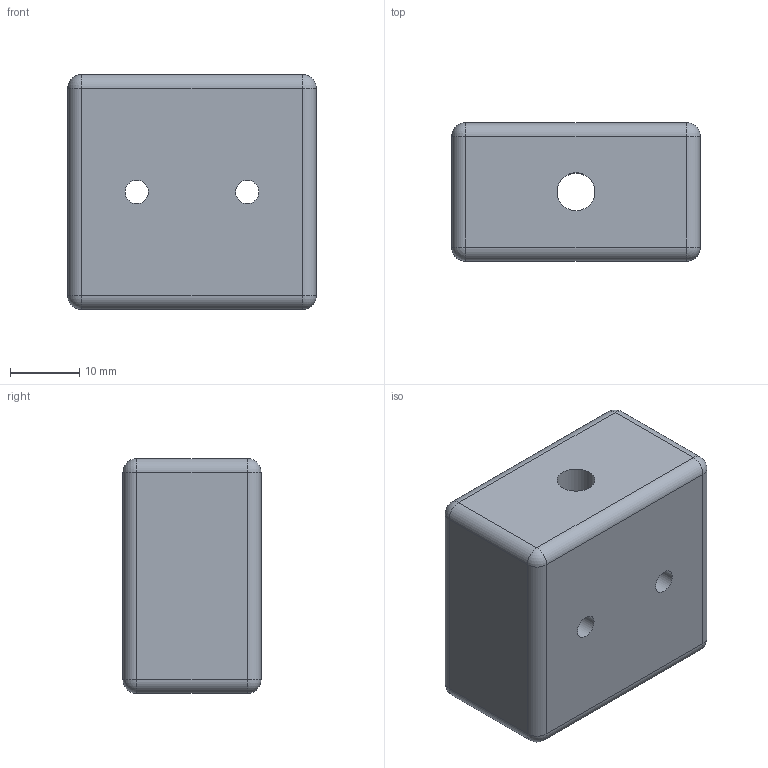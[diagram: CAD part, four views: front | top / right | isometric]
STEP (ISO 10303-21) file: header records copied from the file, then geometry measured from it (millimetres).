
FILE_DESCRIPTION(('Open CASCADE Model'),'2;1');
FILE_NAME('Open CASCADE Shape Model','2026-11-04T08:45:16',('Author'),( 'Open CASCADE'),'Open CASCADE STEP processor 7.8','Open CASCADE 7.8' ,'Unknown');
FILE_SCHEMA(('AUTOMOTIVE_DESIGN { 1 0 10303 214 1 1 1 1 }'));
Length unit declared in the file: millimetre
Products named in the file (1): Open CASCADE STEP translator 7.8 11
Bounding box: 36 x 20 x 34 mm (x, y, z)
Volume: 20299.8 mm3; surface area: 6559.7 mm2
Topology: 1 solids, 1 shells, 58 faces, 136 edges, 64 vertices
Faces by surface type: cylinder 28, sphere 16, plane 14
Full cylindrical faces by diameter (mm): 3.4 x2, 5.5 x2
Entity records: 3906 total; most frequent: CARTESIAN_POINT 1343, DIRECTION 514, LINE 276, VECTOR 276, ORIENTED_EDGE 240, PCURVE 240, DEFINITIONAL_REPRESENTATION 240, EDGE_CURVE 120
